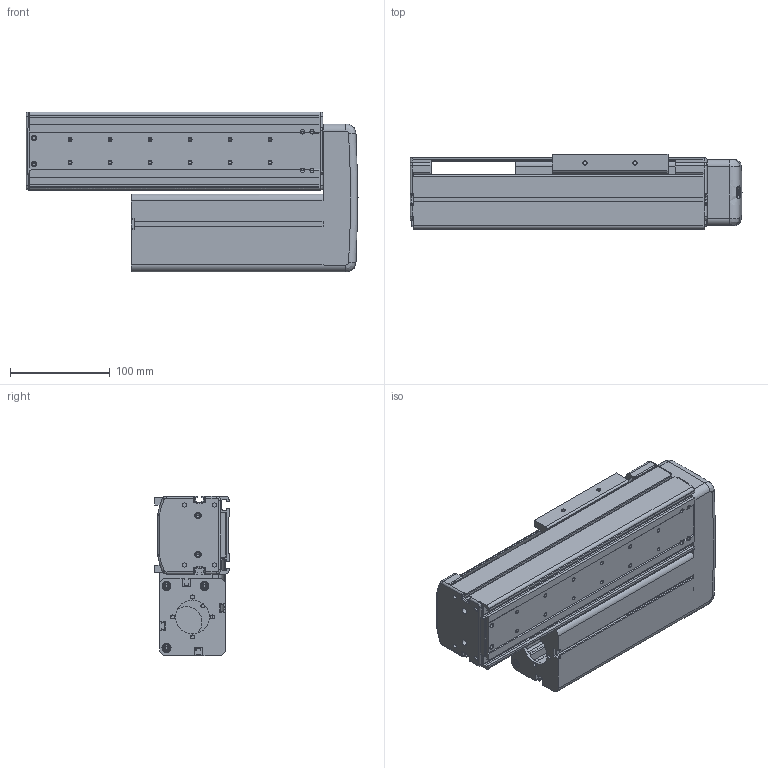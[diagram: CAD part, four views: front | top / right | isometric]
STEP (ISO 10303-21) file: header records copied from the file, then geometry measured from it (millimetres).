
FILE_DESCRIPTION((''),'2;1');
FILE_NAME('BE10E-UL-M_B-10_IGS_PRT','2017-06-17T',(' '),(''),'PRO/ENGINEER BY PARAMETRIC TECHNOLOGY CORPORATION, 2015030','PRO/ENGINEER BY PARAMETRIC TECHNOLOGY CORPORATION, 2015030','');
FILE_SCHEMA(('CONFIG_CONTROL_DESIGN'));
Length unit declared in the file: millimetre
Products named in the file (1): BE10E-UL-M_B-10_IGS_PRT
Bounding box: 332 x 75 x 160 mm (x, y, z)
Volume: 817455.9 mm3; surface area: 543647.2 mm2
Topology: 2 solids, 86 shells, 1673 faces, 4498 edges, 2899 vertices
Faces by surface type: cylinder 757, plane 688, cone 81, torus 71, sphere 44, bspline 32
Entity records: 54445 total; most frequent: CARTESIAN_POINT 11503, DIRECTION 9314, ORIENTED_EDGE 8608, EDGE_CURVE 4464, AXIS2_PLACEMENT_3D 3436, VERTEX_POINT 2899, VECTOR 2442, LINE 2442
